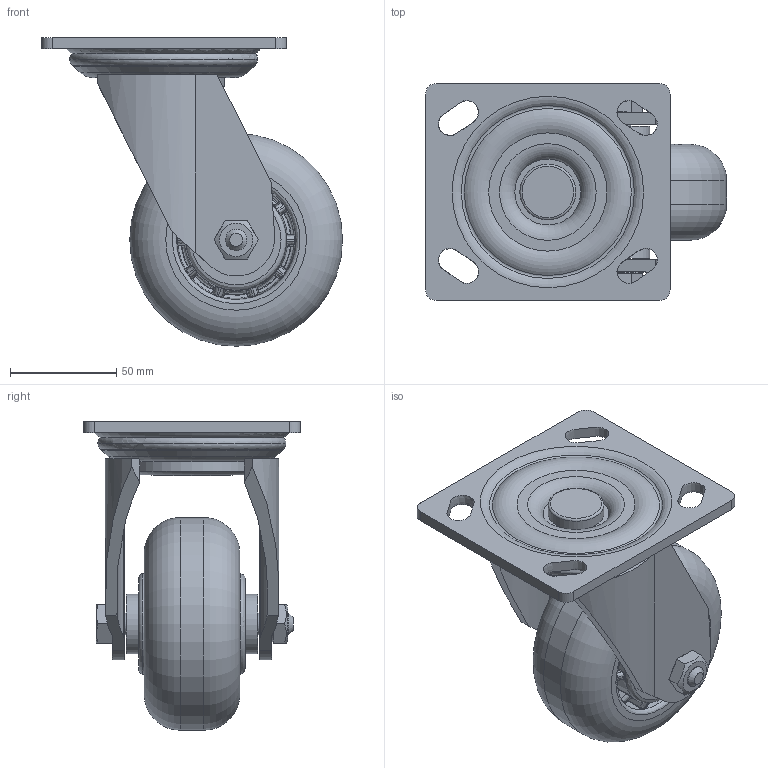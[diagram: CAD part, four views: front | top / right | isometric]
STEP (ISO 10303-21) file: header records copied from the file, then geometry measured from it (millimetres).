
FILE_DESCRIPTION(/* description */ (''),/* implementation_level */ '2;1');
FILE_NAME(/* name */ '35C01_4_F.stp',/* time_stamp */ '2022-10-17T13:00:50+08:00',/* author */ (''),/* organization */ (''),/* preprocessor_version */ 'ST-DEVELOPER v14',/* originating_system */ 'SIEMENS PLM Software NX 8.0',/* authorisation */ '');
FILE_SCHEMA (('AUTOMOTIVE_DESIGN { 1 0 10303 214 3 1 1 1 }'));
Length unit declared in the file: millimetre
Products named in the file (1): 35C01_4_F
Bounding box: 141.5 x 102 x 145 mm (x, y, z)
Volume: 17626.4 mm3; surface area: 120137.8 mm2
Topology: 1 solids, 2 shells, 905 faces, 2260 edges, 1398 vertices
Faces by surface type: bspline 364, plane 314, extrusion 86, cylinder 56, cone 36, sphere 25, torus 24
Full cylindrical faces by diameter (mm): 10.104 x4, 12 x1, 12.2 x2, 16.2 x1, 16.3 x1, 22.276 x1, 26.256 x1, 28 x2, 30.06 x1, 40 x1, 57 x1, 100 x1
Entity records: 39972 total; most frequent: CARTESIAN_POINT 24092, ORIENTED_EDGE 4192, EDGE_CURVE 2096, DIRECTION 1877, VERTEX_POINT 1326, EDGE_LOOP 1098, ADVANCED_FACE 905, B_SPLINE_CURVE_WITH_KNOTS 813
